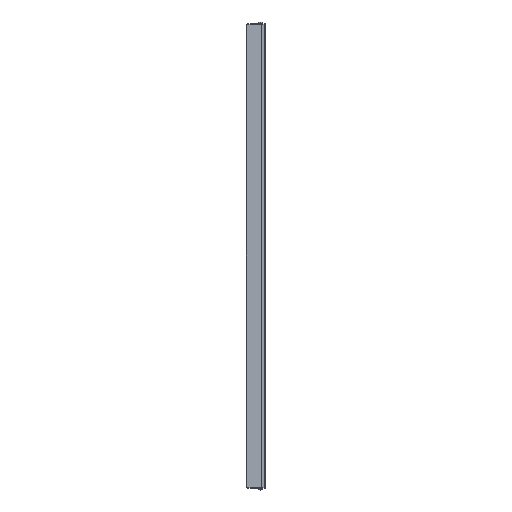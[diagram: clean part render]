
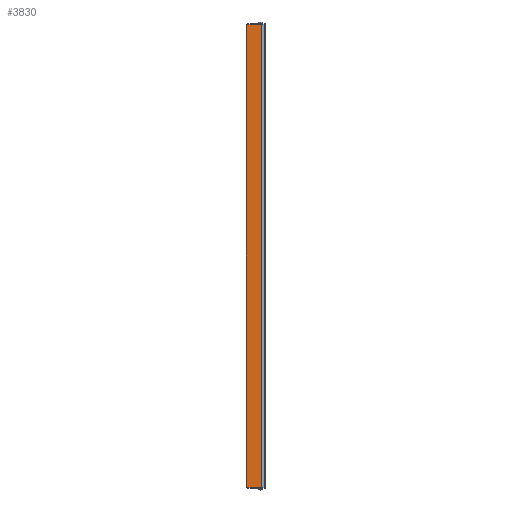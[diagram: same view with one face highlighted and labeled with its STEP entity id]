
A CAD part, left-side view. The second image highlights one B-rep face of the part: STEP entity #3830.
In plain terms, the highlighted planar face has unit normal (-1, 0, 0).
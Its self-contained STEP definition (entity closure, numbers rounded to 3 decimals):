
#466=DIRECTION('',(0.,1.,0.));
#467=VECTOR('',#466,3.303);
#468=CARTESIAN_POINT('',(-14.,13.197,319.5));
#469=LINE('',#468,#467);
#839=DIRECTION('',(0.,1.,0.));
#840=VECTOR('',#839,17.497);
#841=CARTESIAN_POINT('',(-14.,-4.3,320.5));
#842=LINE('',#841,#840);
#847=DIRECTION('',(0.,0.,1.));
#848=VECTOR('',#847,641.);
#849=CARTESIAN_POINT('',(-14.,-4.3,-320.5));
#850=LINE('',#849,#848);
#1202=DIRECTION('',(0.,0.,-1.));
#1203=VECTOR('',#1202,639.);
#1204=CARTESIAN_POINT('',(-14.,16.5,319.5));
#1205=LINE('',#1204,#1203);
#1206=DIRECTION('',(0.,0.,1.));
#1207=VECTOR('',#1206,1.);
#1208=CARTESIAN_POINT('',(-14.,13.197,-320.5));
#1209=LINE('',#1208,#1207);
#1210=DIRECTION('',(0.,1.,0.));
#1211=VECTOR('',#1210,3.303);
#1212=CARTESIAN_POINT('',(-14.,13.197,-319.5));
#1213=LINE('',#1212,#1211);
#1214=DIRECTION('',(0.,0.,1.));
#1215=VECTOR('',#1214,1.);
#1216=CARTESIAN_POINT('',(-14.,13.197,319.5));
#1217=LINE('',#1216,#1215);
#1222=DIRECTION('',(0.,-1.,0.));
#1223=VECTOR('',#1222,17.497);
#1224=CARTESIAN_POINT('',(-14.,13.197,-320.5));
#1225=LINE('',#1224,#1223);
#1810=CARTESIAN_POINT('',(-14.,16.5,-319.5));
#1811=VERTEX_POINT('',#1810);
#1820=CARTESIAN_POINT('',(-14.,16.5,319.5));
#1821=VERTEX_POINT('',#1820);
#2026=CARTESIAN_POINT('',(-14.,13.197,320.5));
#2027=VERTEX_POINT('',#2026);
#2052=CARTESIAN_POINT('',(-14.,-4.3,320.5));
#2053=VERTEX_POINT('',#2052);
#2098=CARTESIAN_POINT('',(-14.,13.197,319.5));
#2100=VERTEX_POINT('',#2098);
#2284=CARTESIAN_POINT('',(-14.,13.197,-320.5));
#2285=VERTEX_POINT('',#2284);
#2286=CARTESIAN_POINT('',(-14.,-4.3,-320.5));
#2287=VERTEX_POINT('',#2286);
#2328=CARTESIAN_POINT('',(-14.,13.197,-319.5));
#2329=VERTEX_POINT('',#2328);
#3813=CARTESIAN_POINT('',(-14.,16.5,-319.5));
#3814=DIRECTION('',(-1.,0.,0.));
#3815=DIRECTION('',(0.,-1.,0.));
#3816=AXIS2_PLACEMENT_3D('',#3813,#3814,#3815);
#3817=PLANE('',#3816);
#3818=ORIENTED_EDGE('',*,*,#3213,.F.);
#3820=ORIENTED_EDGE('',*,*,#3819,.F.);
#3822=ORIENTED_EDGE('',*,*,#3821,.T.);
#3823=ORIENTED_EDGE('',*,*,#2447,.T.);
#3824=ORIENTED_EDGE('',*,*,#3808,.F.);
#3825=ORIENTED_EDGE('',*,*,#2856,.F.);
#3826=ORIENTED_EDGE('',*,*,#3183,.T.);
#3827=ORIENTED_EDGE('',*,*,#3198,.F.);
#3828=EDGE_LOOP('',(#3818,#3820,#3822,#3823,#3824,#3825,#3826,#3827));
#3829=FACE_OUTER_BOUND('',#3828,.F.);
#2447=EDGE_CURVE('',#2329,#1811,#1213,.T.);
#2856=EDGE_CURVE('',#2100,#1821,#469,.T.);
#3183=EDGE_CURVE('',#2100,#2027,#1217,.T.);
#3198=EDGE_CURVE('',#2053,#2027,#842,.T.);
#3213=EDGE_CURVE('',#2287,#2053,#850,.T.);
#3808=EDGE_CURVE('',#1821,#1811,#1205,.T.);
#3819=EDGE_CURVE('',#2285,#2287,#1225,.T.);
#3821=EDGE_CURVE('',#2285,#2329,#1209,.T.);
#3830=ADVANCED_FACE('',(#3829),#3817,.T.);
